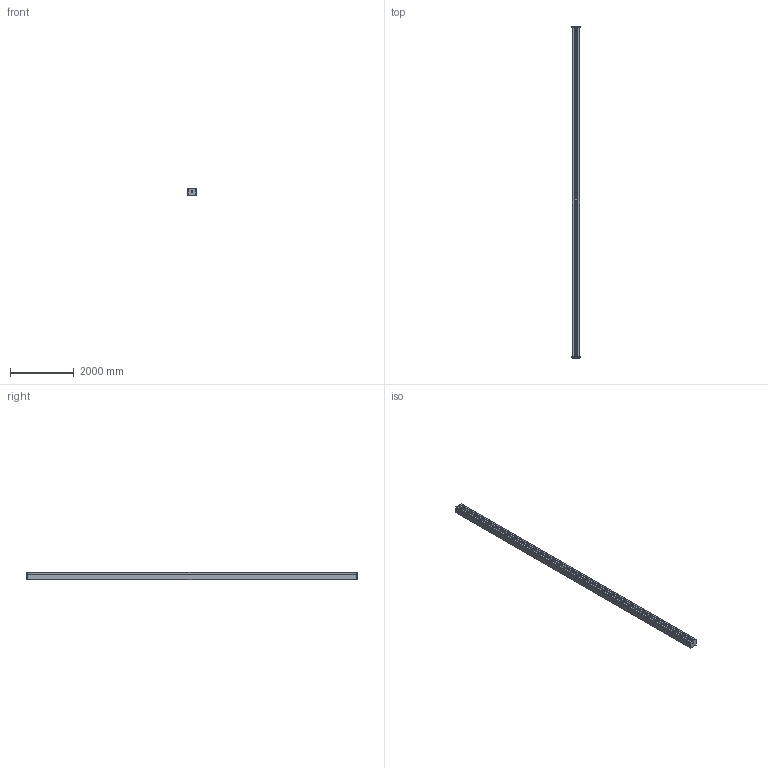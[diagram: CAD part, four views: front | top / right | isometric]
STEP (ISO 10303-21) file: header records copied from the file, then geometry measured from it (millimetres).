
FILE_DESCRIPTION(/* description */ (''),/* implementation_level */ '2;1');
FILE_NAME(/* name */ '4521',/* time_stamp */ '2022-01-20T16:44:08+01:00',/* author */ (''),/* organization */ (''),/* preprocessor_version */ 'ST-DEVELOPER v16.5',/* originating_system */ '',/* authorisation */ '');
FILE_SCHEMA (('CONFIG_CONTROL_DESIGN'));
Length unit declared in the file: centimetre
Products named in the file (1): Document
Bounding box: 251 x 10410 x 230.45 mm (x, y, z)
Volume: 190568928.5 mm3; surface area: 25556404.4 mm2
Topology: 4 solids, 4 shells, 112 faces, 306 edges, 204 vertices
Faces by surface type: plane 80, cylinder 32
Entity records: 3180 total; most frequent: CARTESIAN_POINT 1042, ORIENTED_EDGE 612, EDGE_CURVE 306, B_SPLINE_CURVE_WITH_KNOTS 242, VERTEX_POINT 204, DIRECTION 116, EDGE_LOOP 114, AXIS2_PLACEMENT_3D 114
